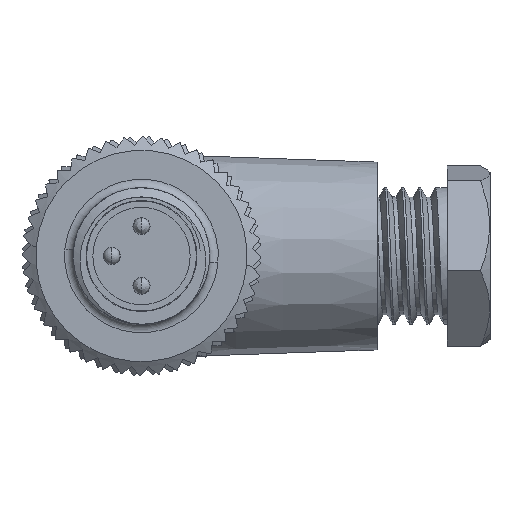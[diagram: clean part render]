
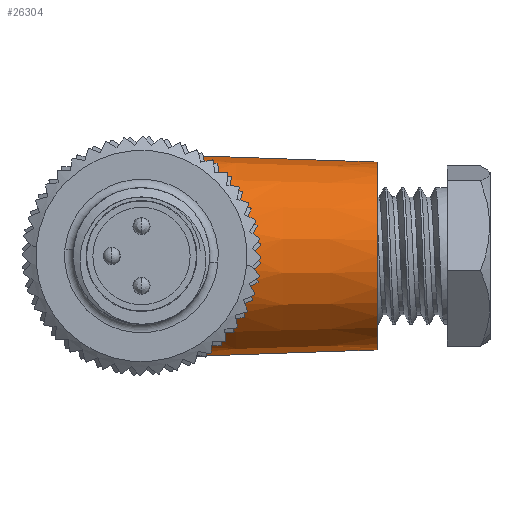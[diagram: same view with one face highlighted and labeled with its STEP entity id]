
A CAD part, front view. The second image highlights one B-rep face of the part: STEP entity #26304.
In plain terms, the highlighted conical face has half-angle 2 degrees and reference radius 5.5 mm.
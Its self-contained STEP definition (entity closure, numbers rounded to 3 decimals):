
#658 = DIRECTION ( 'NONE',  ( 0., 0., 1. ) ) ;
#2437 = CARTESIAN_POINT ( 'NONE',  ( 8.421, 28.036, 25.165 ) ) ;
#2560 = CARTESIAN_POINT ( 'NONE',  ( 8.192, 28.288, 28.219 ) ) ;
#2685 = CARTESIAN_POINT ( 'NONE',  ( 5.83, 31.121, 31.459 ) ) ;
#2809 = CARTESIAN_POINT ( 'NONE',  ( 4.786, 33.284, 32.073 ) ) ;
#3338 = CARTESIAN_POINT ( 'NONE',  ( 15.801, 33.703, 31.699 ) ) ;
#5185 = LINE ( 'NONE', #25841, #12090 ) ;
#5396 = CARTESIAN_POINT ( 'NONE',  ( 4.76, 33.703, 20.314 ) ) ;
#5521 = CARTESIAN_POINT ( 'NONE',  ( 7.364, 29.221, 22.508 ) ) ;
#5650 = CARTESIAN_POINT ( 'NONE',  ( 7.161, 29.454, 30.166 ) ) ;
#5778 = CARTESIAN_POINT ( 'NONE',  ( 5.507, 31.607, 20.725 ) ) ;
#5909 = CARTESIAN_POINT ( 'NONE',  ( 4.882, 32.879, 32.026 ) ) ;
#6813 = EDGE_CURVE ( 'NONE', #16682, #34155, #35314, .T. ) ;
#8470 = CARTESIAN_POINT ( 'NONE',  ( 5.112, 32.307, 20.491 ) ) ;
#8602 = CARTESIAN_POINT ( 'NONE',  ( 7.367, 29.216, 29.884 ) ) ;
#9246 = ORIENTED_EDGE ( 'NONE', *, *, #25094, .T. ) ;
#9716 = CARTESIAN_POINT ( 'NONE',  ( 15.801, 33.703, 26.199 ) ) ;
#9744 = CONICAL_SURFACE ( 'NONE', #31595, 5.5, 0.035 ) ;
#11328 = CARTESIAN_POINT ( 'NONE',  ( 5.402, 31.776, 31.74 ) ) ;
#11576 = CARTESIAN_POINT ( 'NONE',  ( 8.491, 27.959, 25.787 ) ) ;
#11701 = CARTESIAN_POINT ( 'NONE',  ( 5.403, 31.775, 20.659 ) ) ;
#12090 = VECTOR ( 'NONE', #37815, 1000. ) ;
#12346 = VERTEX_POINT ( 'NONE', #37274 ) ;
#14170 = CARTESIAN_POINT ( 'NONE',  ( 8.421, 28.036, 27.236 ) ) ;
#14301 = CARTESIAN_POINT ( 'NONE',  ( 5.507, 31.609, 31.675 ) ) ;
#14426 = CARTESIAN_POINT ( 'NONE',  ( 4.76, 33.495, 32.085 ) ) ;
#14555 = CARTESIAN_POINT ( 'NONE',  ( 8.12, 28.368, 23.998 ) ) ;
#14688 = CARTESIAN_POINT ( 'NONE',  ( 8.511, 27.938, 26.201 ) ) ;
#15154 = ORIENTED_EDGE ( 'NONE', *, *, #6813, .T. ) ;
#15172 = DIRECTION ( 'NONE',  ( -1., 0., 0. ) ) ;
#16682 = VERTEX_POINT ( 'NONE', #34711 ) ;
#17123 = CARTESIAN_POINT ( 'NONE',  ( 6.057, 30.814, 21.112 ) ) ;
#17367 = CARTESIAN_POINT ( 'NONE',  ( 7.159, 29.456, 22.231 ) ) ;
#17496 = CARTESIAN_POINT ( 'NONE',  ( 7.739, 28.793, 23.125 ) ) ;
#17628 = CARTESIAN_POINT ( 'NONE',  ( 4.786, 33.287, 20.326 ) ) ;
#18708 = CIRCLE ( 'NONE', #29867, 5.5 ) ;
#20062 = CARTESIAN_POINT ( 'NONE',  ( 4.882, 32.878, 20.373 ) ) ;
#20187 = CARTESIAN_POINT ( 'NONE',  ( 7.739, 28.793, 29.274 ) ) ;
#20432 = CARTESIAN_POINT ( 'NONE',  ( 6.511, 30.233, 21.509 ) ) ;
#20476 = CARTESIAN_POINT ( 'NONE',  ( 4.76, 33.703, 20.314 ) ) ;
#23015 = CARTESIAN_POINT ( 'NONE',  ( 8.491, 27.959, 26.615 ) ) ;
#23145 = CARTESIAN_POINT ( 'NONE',  ( 7.907, 28.605, 23.457 ) ) ;
#23265 = CARTESIAN_POINT ( 'NONE',  ( 6.059, 30.813, 31.286 ) ) ;
#23401 = CARTESIAN_POINT ( 'NONE',  ( 7.906, 28.606, 28.943 ) ) ;
#23521 = CARTESIAN_POINT ( 'NONE',  ( 4.76, 33.703, 32.085 ) ) ;
#23935 = ORIENTED_EDGE ( 'NONE', *, *, #37430, .F. ) ;
#24258 = DIRECTION ( 'NONE',  ( 0., 0., 1. ) ) ;
#24329 = VECTOR ( 'NONE', #37134, 1000. ) ;
#25094 = EDGE_CURVE ( 'NONE', #30596, #16682, #5185, .T. ) ;
#25841 = CARTESIAN_POINT ( 'NONE',  ( 15.801, 33.703, 31.699 ) ) ;
#26080 = CARTESIAN_POINT ( 'NONE',  ( 5.83, 31.12, 20.941 ) ) ;
#26304 = ADVANCED_FACE ( 'NONE', ( #34604 ), #9744, .T. ) ;
#26347 = CARTESIAN_POINT ( 'NONE',  ( 8.451, 28.003, 25.371 ) ) ;
#28916 = CARTESIAN_POINT ( 'NONE',  ( 5.205, 32.125, 31.856 ) ) ;
#29041 = CARTESIAN_POINT ( 'NONE',  ( 6.733, 29.963, 30.668 ) ) ;
#29161 = CARTESIAN_POINT ( 'NONE',  ( 8.451, 28.003, 27.029 ) ) ;
#29418 = CARTESIAN_POINT ( 'NONE',  ( 5.111, 32.307, 31.908 ) ) ;
#29841 = DIRECTION ( 'NONE',  ( 1., 0., 0. ) ) ;
#29867 = AXIS2_PLACEMENT_3D ( 'NONE', #36159, #29841, #658 ) ;
#30596 = VERTEX_POINT ( 'NONE', #3338 ) ;
#31595 = AXIS2_PLACEMENT_3D ( 'NONE', #9716, #15172, #24258 ) ;
#31758 = CARTESIAN_POINT ( 'NONE',  ( 8.304, 28.164, 27.837 ) ) ;
#32132 = CARTESIAN_POINT ( 'NONE',  ( 8.185, 28.297, 24.186 ) ) ;
#32260 = CARTESIAN_POINT ( 'NONE',  ( 5.205, 32.124, 20.543 ) ) ;
#32468 = EDGE_CURVE ( 'NONE', #12346, #34155, #33054, .T. ) ;
#33054 = LINE ( 'NONE', #37008, #24329 ) ;
#34155 = VERTEX_POINT ( 'NONE', #20476 ) ;
#34604 = FACE_OUTER_BOUND ( 'NONE', #35029, .T. ) ;
#34711 = CARTESIAN_POINT ( 'NONE',  ( 4.76, 33.703, 32.085 ) ) ;
#34718 = CARTESIAN_POINT ( 'NONE',  ( 8.344, 28.121, 24.765 ) ) ;
#34846 = CARTESIAN_POINT ( 'NONE',  ( 8.296, 28.173, 24.569 ) ) ;
#34973 = CARTESIAN_POINT ( 'NONE',  ( 4.95, 32.684, 31.992 ) ) ;
#35029 = EDGE_LOOP ( 'NONE', ( #36185, #23935, #9246, #15154 ) ) ;
#35231 = CARTESIAN_POINT ( 'NONE',  ( 6.733, 29.962, 21.732 ) ) ;
#35314 = B_SPLINE_CURVE_WITH_KNOTS ( 'NONE', 3,
 ( #23521, #14426, #2809, #5909, #34973, #29418, #28916, #11328, #14301, #2685, #23265, #37809, #29041, #5650, #8602, #20187, #23401, #2560, #31758, #14170, #29161, #23015, #14688, #11576, #26347, #2437, #34718, #34846, #32132, #14555, #23145, #17496, #5521, #17367, #35231, #20432, #17123, #26080, #5778, #11701, #32260, #8470, #37682, #20062, #17628, #38184, #5396 ),
 .UNSPECIFIED., .F., .F.,
 ( 4, 2, 2, 2, 2, 2, 2, 2, 2, 2, 2, 1, 2, 2, 2, 2, 2, 2, 2, 2, 2, 2, 2, 4 ),
 ( 0.001, 0.002, 0.003, 0.003, 0.004, 0.005, 0.006, 0.008, 0.009, 0.01, 0.011, 0.011, 0.012, 0.013, 0.013, 0.014, 0.015, 0.016, 0.018, 0.019, 0.02, 0.02, 0.021, 0.021 ),
 .UNSPECIFIED. ) ;
#36159 = CARTESIAN_POINT ( 'NONE',  ( 15.801, 33.703, 26.199 ) ) ;
#36185 = ORIENTED_EDGE ( 'NONE', *, *, #32468, .F. ) ;
#37008 = CARTESIAN_POINT ( 'NONE',  ( 15.801, 33.703, 20.699 ) ) ;
#37134 = DIRECTION ( 'NONE',  ( -0.999, 0., -0.035 ) ) ;
#37274 = CARTESIAN_POINT ( 'NONE',  ( 15.801, 33.703, 20.699 ) ) ;
#37430 = EDGE_CURVE ( 'NONE', #30596, #12346, #18708, .T. ) ;
#37682 = CARTESIAN_POINT ( 'NONE',  ( 4.95, 32.684, 20.406 ) ) ;
#37809 = CARTESIAN_POINT ( 'NONE',  ( 6.51, 30.234, 30.891 ) ) ;
#37815 = DIRECTION ( 'NONE',  ( -0.999, 0., 0.035 ) ) ;
#38184 = CARTESIAN_POINT ( 'NONE',  ( 4.76, 33.494, 20.314 ) ) ;
